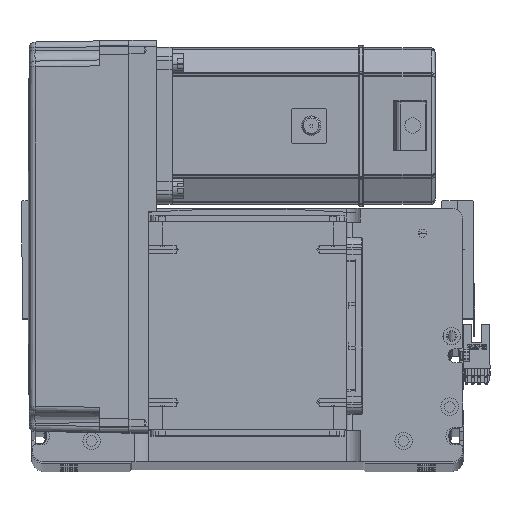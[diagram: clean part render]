
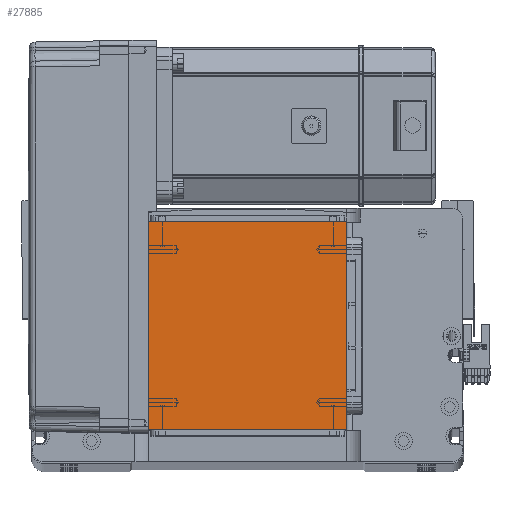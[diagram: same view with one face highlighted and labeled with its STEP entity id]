
A CAD part, top view. The second image highlights one B-rep face of the part: STEP entity #27885.
In plain terms, the highlighted planar face has unit normal (0, 0, 1).
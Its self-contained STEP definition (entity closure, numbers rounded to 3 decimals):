
#180 = EDGE_CURVE ( 'NONE', #42329, #22198, #55495, .T. ) ;
#1309 = DIRECTION ( 'NONE',  ( 1., 0., 0. ) ) ;
#1484 = PLANE ( 'NONE',  #6764 ) ;
#2038 = DIRECTION ( 'NONE',  ( 0., 0., 1. ) ) ;
#2218 = CARTESIAN_POINT ( 'NONE',  ( -50.5, 122., 115. ) ) ;
#2603 = EDGE_CURVE ( 'NONE', #22198, #13957, #29473, .T. ) ;
#4126 = CARTESIAN_POINT ( 'NONE',  ( 50.5, 16., 115. ) ) ;
#6169 = CARTESIAN_POINT ( 'NONE',  ( -50.5, 122., 115. ) ) ;
#6483 = EDGE_CURVE ( 'NONE', #34927, #42329, #25992, .T. ) ;
#6764 = AXIS2_PLACEMENT_3D ( 'NONE', #32074, #2038, #1309 ) ;
#7647 = CARTESIAN_POINT ( 'NONE',  ( -50.5, 16., 115. ) ) ;
#10882 = CARTESIAN_POINT ( 'NONE',  ( -50.5, 16., 115. ) ) ;
#10885 = FACE_OUTER_BOUND ( 'NONE', #49923, .T. ) ;
#13444 = ORIENTED_EDGE ( 'NONE', *, *, #43191, .T. ) ;
#13831 = VECTOR ( 'NONE', #50045, 1000. ) ;
#13957 = VERTEX_POINT ( 'NONE', #4126 ) ;
#19882 = DIRECTION ( 'NONE',  ( 0., -1., 0. ) ) ;
#20321 = ORIENTED_EDGE ( 'NONE', *, *, #180, .T. ) ;
#22198 = VERTEX_POINT ( 'NONE', #10882 ) ;
#25992 = LINE ( 'NONE', #6169, #13831 ) ;
#26403 = VECTOR ( 'NONE', #19882, 1000. ) ;
#27885 = ADVANCED_FACE ( 'NONE', ( #10885 ), #1484, .T. ) ;
#29473 = LINE ( 'NONE', #7647, #47733 ) ;
#29625 = DIRECTION ( 'NONE',  ( 1., 0., 0. ) ) ;
#32074 = CARTESIAN_POINT ( 'NONE',  ( 0., 0., 115. ) ) ;
#34206 = LINE ( 'NONE', #36160, #45659 ) ;
#34927 = VERTEX_POINT ( 'NONE', #43733 ) ;
#36160 = CARTESIAN_POINT ( 'NONE',  ( 50.5, 122., 115. ) ) ;
#36560 = DIRECTION ( 'NONE',  ( 0., 1., 0. ) ) ;
#37662 = ORIENTED_EDGE ( 'NONE', *, *, #2603, .T. ) ;
#42329 = VERTEX_POINT ( 'NONE', #48610 ) ;
#43191 = EDGE_CURVE ( 'NONE', #13957, #34927, #34206, .T. ) ;
#43733 = CARTESIAN_POINT ( 'NONE',  ( 50.5, 122., 115. ) ) ;
#44877 = ORIENTED_EDGE ( 'NONE', *, *, #6483, .T. ) ;
#45659 = VECTOR ( 'NONE', #36560, 1000. ) ;
#47733 = VECTOR ( 'NONE', #29625, 1000. ) ;
#48610 = CARTESIAN_POINT ( 'NONE',  ( -50.5, 122., 115. ) ) ;
#49923 = EDGE_LOOP ( 'NONE', ( #20321, #37662, #13444, #44877 ) ) ;
#50045 = DIRECTION ( 'NONE',  ( -1., 0., 0. ) ) ;
#55495 = LINE ( 'NONE', #2218, #26403 ) ;
